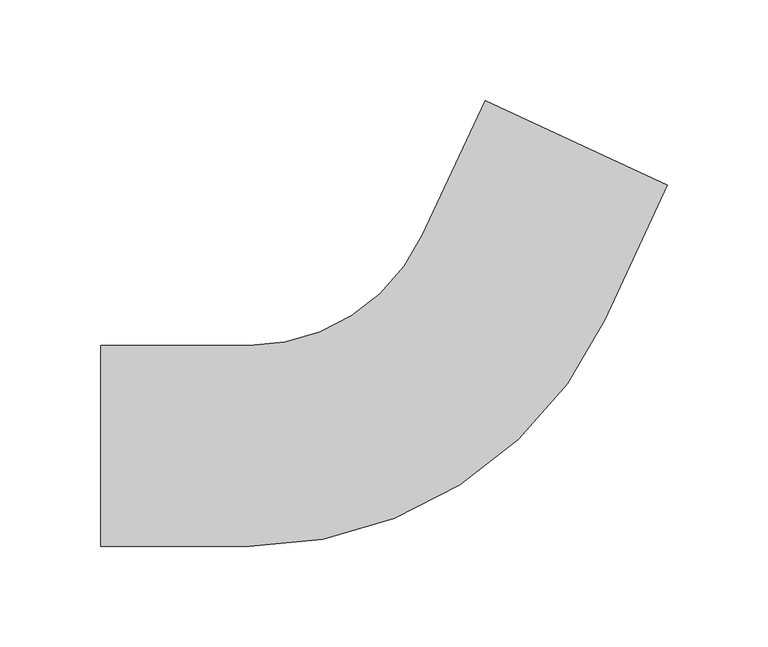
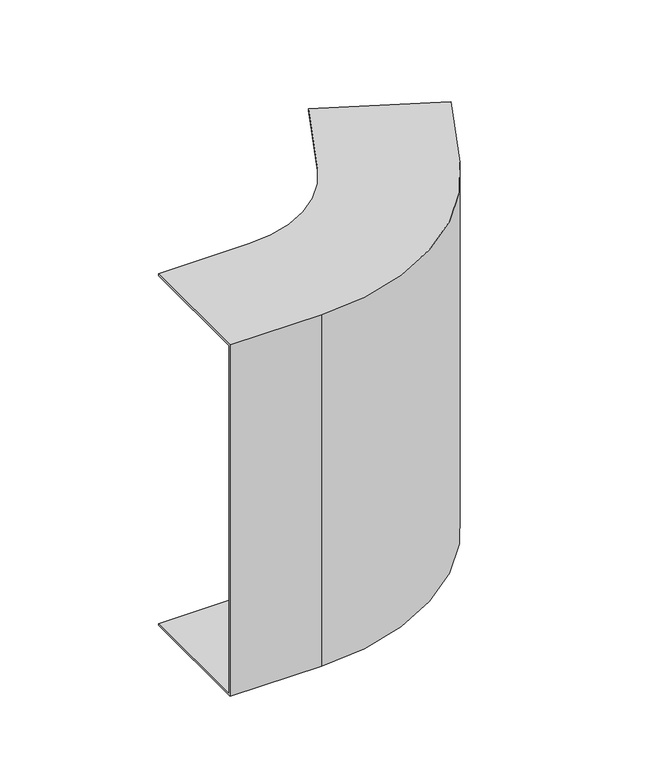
"""IFC4 building model written with IfcOpenShell, lengths in millimetres: cable carrier fitting geometry, BAKS_KK_Vertical bend EXTERNAL_LU : LUMNP_H100."""

import ifcopenshell
import ifcopenshell.guid

model = None  # the IFC model being written
_history = None  # IfcOwnerHistory: only IFC2X3 demands one
_inside = {}  # id of a spatial element -> (the spatial element, [elements in it])
_under = {}  # id of a project, library or spatial element -> (it, [spatial elements below it])
_declared = {}  # id of a project -> (the project, [libraries it declares])
_typed = {}  # id of a type object -> (the type object, [elements of that type])
_made_of = {}  # id of a material, layer set ... -> (it, [elements and type objects made of it])


def new_model(schema):
    """Start an empty IFC model of exactly this schema.

    Asked for "IFC4X3", IfcOpenShell would pick the latest addendum, in which some entities
    have other attributes; the version numbers below select the first issue.
    IFC2X3 requires an IfcOwnerHistory on every rooted entity: one is made here for all.
    """
    global model, _history
    if schema == "IFC4X3":
        model = ifcopenshell.file(schema_version=(4, 3, 0, 0))
    else:
        model = ifcopenshell.file(schema=schema)
    _inside.clear()
    _under.clear()
    _declared.clear()
    _typed.clear()
    _made_of.clear()
    _history = None
    if model.schema == "IFC2X3":
        org = make("IfcOrganization", Name="unknown")
        user = make(
            "IfcPersonAndOrganization",
            ThePerson=make("IfcPerson", FamilyName="unknown"),
            TheOrganization=org,
        )
        app = make(
            "IfcApplication",
            ApplicationDeveloper=org,
            Version="unknown",
            ApplicationFullName="unknown",
            ApplicationIdentifier="unknown",
        )
        _history = make(
            "IfcOwnerHistory",
            OwningUser=user,
            OwningApplication=app,
            ChangeAction="ADDED",
            CreationDate=0,
        )
    return model


def make(cls, **values):
    """One entity of the class cls with the attributes given. An attribute that is None is left unset."""
    return model.create_entity(
        cls, **{name: value for name, value in values.items() if value is not None}
    )


def rooted(cls, **values):
    """An entity with a GlobalId (a new one), such as an element, a storey or a relation."""
    return make(cls, GlobalId=ifcopenshell.guid.new(), OwnerHistory=_history, **values)


def si_unit(unit_type, name, prefix=None):
    """IfcSIUnit, for example si_unit("LENGTHUNIT", "METRE", prefix="MILLI")."""
    return make("IfcSIUnit", UnitType=unit_type, Prefix=prefix, Name=name)


def assignment(units):
    """IfcUnitAssignment: the units of a project."""
    return None if units is None else make("IfcUnitAssignment", Units=units)


def point(xyz):
    """IfcCartesianPoint."""
    return None if xyz is None else make("IfcCartesianPoint", Coordinates=xyz)


def direction(xyz):
    """IfcDirection."""
    return None if xyz is None else make("IfcDirection", DirectionRatios=xyz)


def frame(location, z_axis=None, x_axis=None):
    """IfcAxis2Placement3D, a coordinate frame: its origin and axes. An axis left out is left unset."""
    return make(
        "IfcAxis2Placement3D",
        Location=point(location),
        Axis=direction(z_axis),
        RefDirection=direction(x_axis),
    )


def origin():
    """The frame at (0, 0, 0) with its axes left unset."""
    return frame((0.0, 0.0, 0.0))


def place(relative_to, where):
    """IfcLocalPlacement: puts the frame where relative to a parent placement (None: the world)."""
    return make(
        "IfcLocalPlacement", PlacementRelTo=relative_to, RelativePlacement=where
    )


def context(
    kind, dimensions, precision=None, world=None, true_north=None, identifier=None
):
    """IfcGeometricRepresentationContext, for example the 3D "Model" context."""
    return make(
        "IfcGeometricRepresentationContext",
        ContextIdentifier=identifier,
        ContextType=kind,
        CoordinateSpaceDimension=dimensions,
        Precision=precision,
        WorldCoordinateSystem=world,
        TrueNorth=true_north,
    )


def project(units=None, contexts=None):
    """IfcProject with its units and contexts."""
    return rooted(
        "IfcProject",
        Name="project",
        RepresentationContexts=contexts,
        UnitsInContext=assignment(units),
    )


def spatial(cls, under=None, at=None, **own):
    """A site, building, storey or space (cls), placed at a placement, below another one or the project."""
    s = rooted(cls, ObjectPlacement=at, **own)
    if under is not None:
        _under.setdefault(under.id(), (under, []))[1].append(s)
    return s


def polyline(points):
    """IfcPolyline through the points."""
    return make("IfcPolyline", Points=[point(p) for p in points])


def circle_curve(where, radius):
    """IfcCircle in the frame where."""
    return make("IfcCircle", Position=where, Radius=radius)


def shape(context_of_items, identifier, shape_type, items):
    """IfcShapeRepresentation: the items that make up one representation, for example the "Body"."""
    return make(
        "IfcShapeRepresentation",
        ContextOfItems=context_of_items,
        RepresentationIdentifier=identifier,
        RepresentationType=shape_type,
        Items=items,
    )


def source(mapping_origin, context_of_items, identifier, shape_type, items):
    """IfcRepresentationMap: a shape defined once, which mapped items show again and again."""
    return make(
        "IfcRepresentationMap",
        MappingOrigin=mapping_origin,
        MappedRepresentation=shape(context_of_items, identifier, shape_type, items),
    )


def transform(
    local_origin,
    x_axis=None,
    y_axis=None,
    z_axis=None,
    scale=None,
    scale2=None,
    scale3=None,
    uniform=True,
):
    """IfcCartesianTransformationOperator3D, or its non-uniform kind. x_axis, y_axis, z_axis: its Axis1, 2, 3."""
    if uniform:
        return make(
            "IfcCartesianTransformationOperator3D",
            Axis1=direction(x_axis),
            Axis2=direction(y_axis),
            LocalOrigin=point(local_origin),
            Scale=scale,
            Axis3=direction(z_axis),
        )
    return make(
        "IfcCartesianTransformationOperator3DnonUniform",
        Axis1=direction(x_axis),
        Axis2=direction(y_axis),
        LocalOrigin=point(local_origin),
        Scale=scale,
        Axis3=direction(z_axis),
        Scale2=scale2,
        Scale3=scale3,
    )


def mapped(mapping_source, mapping_target):
    """IfcMappedItem: shows the shape of a source again, moved by a transform."""
    return make(
        "IfcMappedItem", MappingSource=mapping_source, MappingTarget=mapping_target
    )


def made_of(thing, what):
    """Note that an element or type object is made of a material, layer set ...; save() writes the relation."""
    if what is not None:
        _made_of.setdefault(what.id(), (what, []))[1].append(thing)
    return thing


def element(
    cls,
    number,
    at=None,
    inside=None,
    cuts=None,
    type_object=None,
    material=None,
    context=None,
    identifier="Body",
    shape_type=None,
    held_by="IfcProductDefinitionShape",
    body=None,
    shapes=None,
    **own,
):
    """One element of the class cls, such as IfcWall. Its Tag is "e" and its number.

    at: its placement. inside: the storey or other place that contains it. cuts: it is an
    opening in that element (IfcRelVoidsElement). A single representation is given by context,
    identifier, shape_type and body (its items); several are given by shapes. held_by: the class
    of the entity that holds the representations. save() writes the other relations.
    """
    e = rooted(cls, Tag="e%d" % number, ObjectPlacement=at, **own)
    if body is not None:
        shapes = [shape(context, identifier, shape_type, body)]
    if shapes is not None:
        e.Representation = make(held_by, Representations=shapes)
    if inside is not None:
        _inside.setdefault(inside.id(), (inside, []))[1].append(e)
    if cuts is not None:
        rooted(
            "IfcRelVoidsElement", RelatingBuildingElement=cuts, RelatedOpeningElement=e
        )
    if type_object is not None:
        _typed.setdefault(type_object.id(), (type_object, []))[1].append(e)
    return made_of(e, material)


def aggregate(whole, parts):
    """IfcRelAggregates: a whole, such as a stair, and the parts it consists of."""
    return rooted("IfcRelAggregates", RelatingObject=whole, RelatedObjects=parts)


def save(model, path):
    """Write the relations noted so far, then the file.

    IfcRelAggregates (storeys below a building ...), IfcRelContainedInSpatialStructure (elements
    in a storey), IfcRelDefinesByType, IfcRelAssociatesMaterial and IfcRelDeclares: one each for
    every whole, place, type object, material and project.
    """
    for whole, parts in _under.values():
        aggregate(whole, parts)
    for where, things in _inside.values():
        rooted(
            "IfcRelContainedInSpatialStructure",
            RelatedElements=things,
            RelatingStructure=where,
        )
    for kind, things in _typed.values():
        rooted("IfcRelDefinesByType", RelatedObjects=things, RelatingType=kind)
    for what, things in _made_of.values():
        rooted("IfcRelAssociatesMaterial", RelatedObjects=things, RelatingMaterial=what)
    for by, libraries in _declared.values():
        rooted("IfcRelDeclares", RelatingContext=by, RelatedDefinitions=libraries)
    model.write(path)


def plane_surface(at):
    """IfcPlane: the flat surface through the origin of the frame at, square to its z axis."""
    return make("IfcPlane", Position=at)


def cylinder_surface(at, radius):
    """IfcCylindricalSurface: all points at the distance radius from the z axis of the frame at."""
    return make("IfcCylindricalSurface", Position=at, Radius=radius)


def revolved_surface(curve, axis_point, axis_direction):
    """IfcSurfaceOfRevolution: the curve turned about the line through axis_point along axis_direction."""
    return make(
        "IfcSurfaceOfRevolution",
        SweptCurve=make("IfcArbitraryOpenProfileDef", ProfileType="CURVE", Curve=curve),
        AxisPosition=make("IfcAxis1Placement", Location=point(axis_point), Axis=direction(axis_direction)),
    )


def advanced_brep(points, edges, surfaces, faces):
    """IfcAdvancedBrep: a solid bounded by faces that lie on surfaces and meet in shared edges.

    An edge is (start, end): straight between two places in points (the first is 0);
    or (start, end, curve); or (start, end, curve, False) where it runs against its curve.
    A face is (place in surfaces, loops), or (place, loops, False) where it looks against
    its surface's normal. A loop lists edges by number (the first is 1), with a minus sign
    where the edge is run from its end to its start. The first loop is the outer one.
    """
    corners = [point(p) for p in points]
    vertices = [make("IfcVertexPoint", VertexGeometry=c) for c in corners]
    made = []
    for start, end, *more in edges:
        made.append(
            make(
                "IfcEdgeCurve",
                EdgeStart=vertices[start],
                EdgeEnd=vertices[end],
                EdgeGeometry=more[0] if more else make("IfcPolyline", Points=[corners[start], corners[end]]),
                SameSense=more[1] if len(more) > 1 else True,
            )
        )
    hull = []
    for where, loops, *sense in faces:
        bounds = []
        for j, loop in enumerate(loops):
            ring = [make("IfcOrientedEdge", EdgeElement=made[abs(k) - 1], Orientation=k > 0) for k in loop]
            bounds.append(
                make(
                    "IfcFaceOuterBound" if j == 0 else "IfcFaceBound",
                    Bound=make("IfcEdgeLoop", EdgeList=ring),
                    Orientation=True,
                )
            )
        hull.append(make("IfcAdvancedFace", Bounds=bounds, FaceSurface=surfaces[where], SameSense=sense[0] if sense else True))
    return make("IfcAdvancedBrep", Outer=make("IfcClosedShell", CfsFaces=hull))


def cable_carrier_fitting_a42b7499(model_context):
    return source(origin(), model_context, "Body", "AdvancedBrep", [
        advanced_brep(
        [(-166.3751878, 50.0, 150.0), (-166.3751878, 50.0, 148.5), (-166.3751878, -48.5, 148.5), (-166.3751878, -48.5, -148.5), (-166.3751878, 50.0, -148.5), (-166.3751878, 50.0, -150.0), (-166.3751878, -50.0, -150.0), (-166.3751878, -50.0, 150.0), (24.9978033, 171.9180414, 150.0), (115.628582, 129.6562152, 150.0), (115.628582, 129.6562152, -150.0), (24.9978033, 171.9180414, -150.0), (24.9978033, 171.9180414, -148.5), (114.2691203, 130.2901426, -148.5), (114.2691203, 130.2901426, 148.5), (24.9978033, 171.9180414, 148.5), (-92.3751878, -50.0, 150.0), (84.3548307, 62.589439, 150.0), (-6.275948, 104.8512651, 150.0), (-92.3751878, 50.0, 150.0), (-92.3751878, -50.0, -150.0), (-92.3751878, 50.0, -150.0), (-6.275948, 104.8512651, -150.0), (84.3548307, 62.589439, -150.0), (-92.3751878, 50.0, -148.5), (-92.3751878, -48.5, -148.5), (82.995369, 63.2233664, -148.5), (-6.275948, 104.8512651, -148.5), (-92.3751878, -48.5, 148.5), (-92.3751878, 50.0, 148.5), (-6.275948, 104.8512651, 148.5), (82.995369, 63.2233664, 148.5)],
        [
            (0, 1),
            (1, 2),
            (2, 3),
            (3, 4),
            (4, 5),
            (5, 6),
            (6, 7),
            (7, 0),
            (8, 9),
            (9, 10),
            (10, 11),
            (11, 12),
            (12, 13),
            (13, 14),
            (14, 15),
            (15, 8),
            (7, 16),
            (16, 17, circle_curve(frame((-92.3751878, 145.0, 150.0), z_axis=(0.0, 0.0, 1.0), x_axis=(0.0, -1.0, 0.0)), 195.0)),
            (17, 9),
            (8, 18),
            (18, 19, circle_curve(frame((-92.3751878, 145.0, 150.0), z_axis=(0.0, 0.0, -1.0), x_axis=(0.0, -1.0, 0.0)), 95.0)),
            (19, 0),
            (6, 20),
            (20, 16),
            (5, 21),
            (21, 22, circle_curve(frame((-92.3751878, 145.0, -150.0), z_axis=(0.0, 0.0, 1.0), x_axis=(0.0, -1.0, 0.0)), 95.0)),
            (22, 11),
            (10, 23),
            (23, 20, circle_curve(frame((-92.3751878, 145.0, -150.0), z_axis=(0.0, 0.0, -1.0), x_axis=(0.0, -1.0, 0.0)), 195.0)),
            (4, 24),
            (24, 21),
            (3, 25),
            (25, 26, circle_curve(frame((-92.3751878, 145.0, -148.5), z_axis=(0.0, 0.0, 1.0), x_axis=(0.0, -1.0, 0.0)), 193.5)),
            (26, 13),
            (12, 27),
            (27, 24, circle_curve(frame((-92.3751878, 145.0, -148.5), z_axis=(0.0, 0.0, -1.0), x_axis=(0.0, -1.0, 0.0)), 95.0)),
            (2, 28),
            (28, 25),
            (1, 29),
            (29, 30, circle_curve(frame((-92.3751878, 145.0, 148.5), z_axis=(0.0, 0.0, 1.0), x_axis=(0.0, -1.0, 0.0)), 95.0)),
            (30, 15),
            (14, 31),
            (31, 28, circle_curve(frame((-92.3751878, 145.0, 148.5), z_axis=(0.0, 0.0, -1.0), x_axis=(0.0, -1.0, 0.0)), 193.5)),
            (19, 29),
            (23, 17),
            (27, 22),
            (31, 26),
            (18, 30),
        ],
        [
            plane_surface(frame((-166.3751878, 0.0, 0.0), z_axis=(-1.0, 0.0, 0.0), x_axis=(0.0, 0.0, 1.0))),
            plane_surface(frame((70.3131927, 150.7871283, 0.0), z_axis=(0.42261826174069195, 0.9063077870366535, 0.0), x_axis=(0.0, 0.0, 1.0))),
            plane_surface(frame((-166.3751878, -50.0, 150.0), z_axis=(0.0, 0.0, 1.0), x_axis=(1.0, 0.0, 0.0))),
            plane_surface(frame((-166.3751878, -50.0, -150.0), z_axis=(0.0, -1.0, 0.0), x_axis=(1.0, 0.0, 0.0))),
            plane_surface(frame((-166.3751878, 50.0, -150.0), z_axis=(0.0, 0.0, -1.0), x_axis=(1.0, 0.0, 0.0))),
            plane_surface(frame((-166.3751878, 50.0, -148.5), z_axis=(0.0, 1.0, 0.0), x_axis=(1.0, 0.0, 0.0))),
            plane_surface(frame((-166.3751878, -48.5, -148.5), z_axis=(0.0, 0.0, 1.0), x_axis=(1.0, 0.0, 0.0))),
            plane_surface(frame((-166.3751878, -48.5, 148.5), z_axis=(0.0, 1.0, 0.0), x_axis=(1.0, 0.0, 0.0))),
            plane_surface(frame((-166.3751878, 50.0, 148.5), z_axis=(0.0, 0.0, -1.0), x_axis=(1.0, 0.0, 0.0))),
            plane_surface(frame((-166.3751878, 50.0, 150.0), z_axis=(0.0, 1.0, 0.0), x_axis=(1.0, 0.0, 0.0))),
            cylinder_surface(frame((-92.3751878, 145.0, 0.0), z_axis=(0.0, 0.0, 1.0), x_axis=(0.0, -1.0, 0.0)), 195.0),
            revolved_surface(polyline([(-92.3751878, 50.0, -148.5), (-92.3751878, 50.0, -150.0)]), (-92.3751878, 145.0, 0.0), (0.0, 0.0, 1.0)),
            revolved_surface(polyline([(-92.3751878, -48.5, 148.5), (-92.3751878, -48.5, -148.5)]), (-92.3751878, 145.0, 0.0), (0.0, 0.0, 1.0)),
            revolved_surface(polyline([(-92.3751878, 50.0, 150.0), (-92.3751878, 50.0, 148.5)]), (-92.3751878, 145.0, 0.0), (0.0, 0.0, 1.0)),
            plane_surface(frame((84.3548307, 62.589439, -150.0), z_axis=(0.9063077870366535, -0.4226182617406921, 0.0), x_axis=(0.4226182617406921, 0.9063077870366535, 0.0))),
            plane_surface(frame((-6.275948, 104.8512651, -148.5), z_axis=(-0.9063077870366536, 0.4226182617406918, 0.0), x_axis=(0.4226182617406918, 0.9063077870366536, 0.0))),
            plane_surface(frame((82.995369, 63.2233664, 148.5), z_axis=(-0.9063077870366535, 0.4226182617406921, 0.0), x_axis=(0.4226182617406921, 0.9063077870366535, 0.0))),
            plane_surface(frame((-6.275948, 104.8512651, 150.0), z_axis=(-0.9063077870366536, 0.4226182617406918, 0.0), x_axis=(0.4226182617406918, 0.9063077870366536, 0.0))),
        ],
        [
            (0, [[1, 2, 3, 4, 5, 6, 7, 8]]),
            (1, [[9, 10, 11, 12, 13, 14, 15, 16]]),
            (2, [[-8, 17, 18, 19, -9, 20, 21, 22]]),
            (3, [[-7, 23, 24, -17]]),
            (4, [[-6, 25, 26, 27, -11, 28, 29, -23]]),
            (5, [[-5, 30, 31, -25]]),
            (6, [[-4, 32, 33, 34, -13, 35, 36, -30]]),
            (7, [[-3, 37, 38, -32]]),
            (8, [[-2, 39, 40, 41, -15, 42, 43, -37]]),
            (9, [[-1, -22, 44, -39]]),
            (10, [[-18, -24, -29, 45]]),
            (11, [[-26, -31, -36, 46]]),
            (12, [[-33, -38, -43, 47]]),
            (13, [[-40, -44, -21, 48]]),
            (14, [[-45, -28, -10, -19]]),
            (15, [[-46, -35, -12, -27]]),
            (16, [[-47, -42, -14, -34]]),
            (17, [[-48, -20, -16, -41]]),
        ],
    ),
    ])


if __name__ == "__main__":
    model = new_model("IFC4")
    model_context = context("Model", 3, world=origin())
    ifc_project = project(units=[si_unit("LENGTHUNIT", "METRE", prefix="MILLI")], contexts=[model_context])
    site = spatial("IfcSite", under=ifc_project)
    building = spatial("IfcBuilding", under=site)
    placement = place(None, origin())
    cable_carrier_fitting_shape = cable_carrier_fitting_a42b7499(model_context)
    element("IfcCableCarrierFitting", 1, ObjectType="BAKS_KK_Vertical bend EXTERNAL_LU : LUMNP_H100", at=placement, inside=building, context=model_context, shape_type="MappedRepresentation", body=[
        mapped(cable_carrier_fitting_shape, transform((0.0, 0.0, 0.0), x_axis=(1.0, 0.0, 0.0), y_axis=(0.0, 1.0, 0.0), z_axis=(0.0, 0.0, 1.0))),
    ])
    save(model, "model.ifc")
